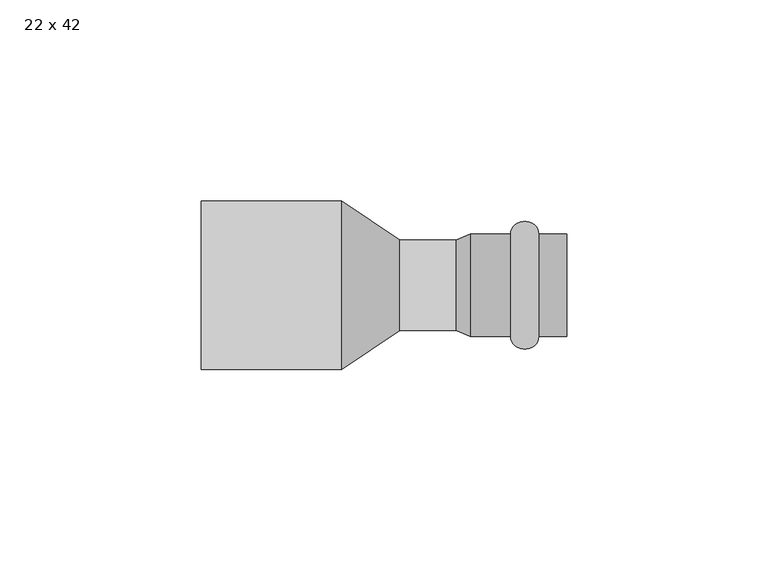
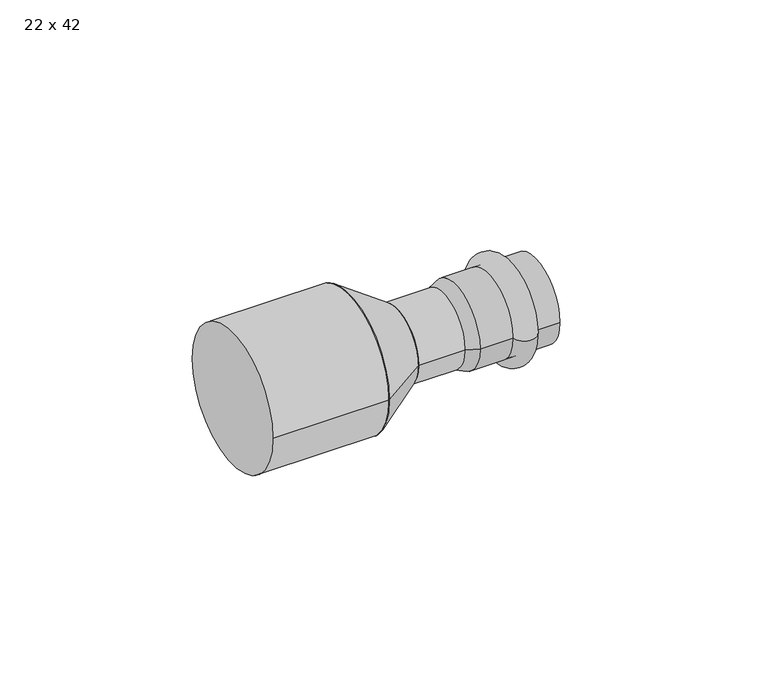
"""IFC4 building model written with IfcOpenShell, lengths in millimetres: pipe fitting geometry, РЕХАУ_Пресс Вставка переходная : 22 x 42."""

from ifc_helpers import new_model, si_unit, point, frame, origin, origin_2d, place, context, project, spatial, polyline, circle_curve, ellipse_curve, trimmed, segment, composite_curve, outline, extrude, source, transform, mapped, element, save
from ifc_brep_helpers import plane_surface, cylinder_surface, revolved_surface, advanced_brep


def pipe_fitting_22_x_42_b39b4fa0(model_context):
    return source(origin(), model_context, "Body", "SolidModel", [
        advanced_brep(
        [(84.0, 12.75, 0.0), (84.0, -12.75, 0.0), (77.0, -12.75, 0.0), (77.0, 12.75, 0.0)],
        [
            (0, 1, circle_curve(frame((84.0, 0.0, 0.0), z_axis=(1.0, 0.0, 0.0), x_axis=(0.0, -1.0, 0.0)), 12.75)),
            (1, 2),
            (2, 3, circle_curve(frame((77.0, 0.0, 0.0), z_axis=(-1.0, 0.0, 0.0), x_axis=(0.0, -1.0, 0.0)), 12.75)),
            (3, 0),
            (1, 0, circle_curve(frame((84.0, 0.0, 0.0), z_axis=(1.0, 0.0, 0.0), x_axis=(0.0, -1.0, 0.0)), 12.75)),
            (3, 2, circle_curve(frame((77.0, 0.0, 0.0), z_axis=(-1.0, 0.0, 0.0), x_axis=(0.0, -1.0, 0.0)), 12.75)),
            (2, 1, ellipse_curve(frame((80.5, -12.75, 0.0), z_axis=(0.0, 0.0, 1.0), x_axis=(1.0, 0.0, 0.0)), 3.5, 3.1)),
            (0, 3, ellipse_curve(frame((80.5, 12.75, 0.0), z_axis=(0.0, 0.0, 1.0), x_axis=(1.0, 0.0, 0.0)), 3.5, 3.1)),
        ],
        [
            revolved_surface(polyline([(77.0, -12.75, 0.0), (84.0, -12.75, 0.0)]), (64.0, 0.0, 0.0), (-1.0, 0.0, 0.0)),
            revolved_surface(trimmed(ellipse_curve(frame((80.5, -12.75, 0.0), z_axis=(0.0, 0.0, -1.0), x_axis=(1.0, 0.0, 0.0)), 3.5, 3.1), [point((84.0, -12.75, 0.0))], [point((77.0, -12.75, 0.0))], True, "CARTESIAN"), (64.0, 0.0, 0.0), (-1.0, 0.0, 0.0)),
        ],
        [
            (0, [[1, 2, 3, 4]]),
            (0, [[5, -4, 6, -2]]),
            (1, [[-3, 7, -1, 8]]),
            (1, [[-6, -8, -5, -7]]),
        ],
    ),
        advanced_brep(
        [(63.4662215, 11.25, 0.0), (63.4662215, -11.25, 0.0), (67.0, -12.75, 0.0), (67.0, 12.75, 0.0), (91.0, 11.25, 0.0), (91.0, -11.25, 0.0), (91.0, 12.75, 0.0), (91.0, -12.75, 0.0)],
        [
            (0, 1, circle_curve(frame((63.4662215, 0.0, 0.0), z_axis=(1.0, 0.0, 0.0), x_axis=(0.0, -1.0, 0.0)), 11.25)),
            (1, 2),
            (2, 3, circle_curve(frame((67.0, 0.0, 0.0), z_axis=(-1.0, 0.0, 0.0), x_axis=(0.0, -1.0, 0.0)), 12.75)),
            (3, 0),
            (1, 0, circle_curve(frame((63.4662215, 0.0, 0.0), z_axis=(1.0, 0.0, 0.0), x_axis=(0.0, -1.0, 0.0)), 11.25)),
            (3, 2, circle_curve(frame((67.0, 0.0, 0.0), z_axis=(-1.0, 0.0, 0.0), x_axis=(0.0, -1.0, 0.0)), 12.75)),
            (4, 5, circle_curve(frame((91.0, 0.0, 0.0), z_axis=(1.0, 0.0, 0.0), x_axis=(0.0, -1.0, 0.0)), 11.25)),
            (5, 1),
            (0, 4),
            (5, 4, circle_curve(frame((91.0, 0.0, 0.0), z_axis=(1.0, 0.0, 0.0), x_axis=(0.0, -1.0, 0.0)), 11.25)),
            (6, 7, circle_curve(frame((91.0, 0.0, 0.0), z_axis=(1.0, 0.0, 0.0), x_axis=(0.0, -1.0, 0.0)), 12.75)),
            (7, 5),
            (4, 6),
            (7, 6, circle_curve(frame((91.0, 0.0, 0.0), z_axis=(1.0, 0.0, 0.0), x_axis=(0.0, -1.0, 0.0)), 12.75)),
            (2, 7),
            (6, 3),
        ],
        [
            revolved_surface(polyline([(67.0, -12.75, 0.0), (63.4662215, -11.25, 0.0)]), (64.0, 0.0, 0.0), (-1.0, 0.0, 0.0)),
            revolved_surface(polyline([(63.4662215, -11.25, 0.0), (91.0, -11.25, 0.0)]), (64.0, 0.0, 0.0), (-1.0, 0.0, 0.0)),
            plane_surface(frame((91.0, 0.0, 0.0), z_axis=(1.0, 0.0, 0.0), x_axis=(0.0, -1.0, 0.0))),
            cylinder_surface(frame((64.0, 0.0, 0.0), z_axis=(-1.0, 0.0, 0.0), x_axis=(0.0, -1.0, 0.0)), 12.75),
        ],
        [
            (0, [[1, 2, 3, 4]]),
            (0, [[5, -4, 6, -2]]),
            (1, [[7, 8, -1, 9]]),
            (1, [[10, -9, -5, -8]]),
            (2, [[11, 12, -7, 13]]),
            (2, [[14, -13, -10, -12]]),
            (3, [[-3, 15, -11, 16]]),
            (3, [[-6, -16, -14, -15]]),
        ],
    ),
        extrude(outline(composite_curve([segment(trimmed(circle_curve(origin_2d(), 11.25), [point((-11.25, 0.0))], [point((11.25, 0.0))], False, "CARTESIAN"), True, "CONTINUOUS"), segment(trimmed(circle_curve(origin_2d(), 11.25), [point((11.25, 0.0))], [point((-11.25, 0.0))], False, "CARTESIAN"), True, "CONTINUOUS")], self_intersect=False)), frame((49.45, 0.0, 0.0), z_axis=(1.0, 0.0, 0.0), x_axis=(0.0, 1.0, 0.0)), (0.0, 0.0, 1.0), 17.55),
        advanced_brep(
        [(49.45, -11.25, 0.0), (49.45, 11.25, 0.0), (35.0, -21.0, 0.0), (35.0, 21.0, 0.0)],
        [
            (0, 1, circle_curve(frame((49.45, 0.0, 0.0), z_axis=(1.0, 0.0, 0.0), x_axis=(0.0, -1.0, 0.0)), 11.25)),
            (1, 0, circle_curve(frame((49.45, 0.0, 0.0), z_axis=(1.0, 0.0, 0.0), x_axis=(0.0, 1.0, 0.0)), 11.25)),
            (2, 3, circle_curve(frame((35.0, 0.0, 0.0), z_axis=(-1.0, 0.0, 0.0), x_axis=(0.0, 1.0, 0.0)), 21.0)),
            (3, 2, circle_curve(frame((35.0, 0.0, 0.0), z_axis=(-1.0, 0.0, 0.0), x_axis=(0.0, -1.0, 0.0)), 21.0)),
            (3, 1),
            (0, 2),
        ],
        [
            plane_surface(frame((49.45, 0.0, 0.0), z_axis=(1.0, 0.0, 0.0), x_axis=(0.0, 0.0, -1.0))),
            plane_surface(frame((35.0, 0.0, 0.0), z_axis=(-1.0, 0.0, 0.0), x_axis=(0.0, 0.0, -1.0))),
            revolved_surface(polyline([(49.45, -11.249999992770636, 0.0), (35.0, -21.0, 0.0)]), (66.1230769, 0.0, 0.0), (-1.0, 0.0, 0.0)),
            revolved_surface(polyline([(49.45, 11.249999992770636, 0.0), (35.0, 21.0, 0.0)]), (66.1230769, 0.0, 0.0), (-1.0, 0.0, 0.0)),
        ],
        [
            (0, [[1, 2]]),
            (1, [[3, 4]]),
            (2, [[-4, 5, -1, 6]]),
            (3, [[-3, -6, -2, -5]]),
        ],
    ),
        extrude(outline(composite_curve([segment(trimmed(circle_curve(origin_2d(), 21.0), [point((-21.0, 0.0))], [point((21.0, 0.0))], False, "CARTESIAN"), True, "CONTINUOUS"), segment(trimmed(circle_curve(origin_2d(), 21.0), [point((21.0, 0.0))], [point((-21.0, 0.0))], False, "CARTESIAN"), True, "CONTINUOUS")], self_intersect=False)), frame((0.0, 0.0, 0.0), z_axis=(1.0, 0.0, 0.0), x_axis=(0.0, 1.0, 0.0)), (0.0, 0.0, 1.0), 35.0),
    ])


if __name__ == "__main__":
    model = new_model("IFC4")
    model_context = context("Model", 3, world=origin())
    ifc_project = project(units=[si_unit("LENGTHUNIT", "METRE", prefix="MILLI")], contexts=[model_context])
    site = spatial("IfcSite", under=ifc_project)
    building = spatial("IfcBuilding", under=site)
    placement = place(None, origin())
    pipe_fitting_22_x_42_shape = pipe_fitting_22_x_42_b39b4fa0(model_context)
    element("IfcPipeFitting", 1, ObjectType="РЕХАУ_Пресс Вставка переходная : 22 x 42", at=placement, inside=building, context=model_context, shape_type="MappedRepresentation", body=[
        mapped(pipe_fitting_22_x_42_shape, transform((0.0, 0.0, 0.0), x_axis=(1.0, 0.0, 0.0), y_axis=(0.0, 1.0, 0.0), z_axis=(0.0, 0.0, 1.0))),
    ])
    save(model, "model.ifc")
